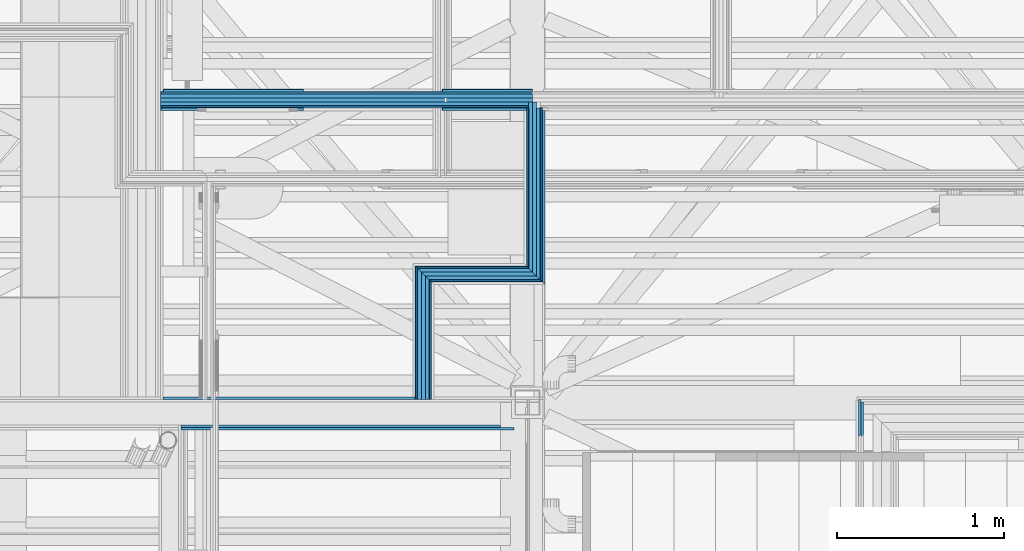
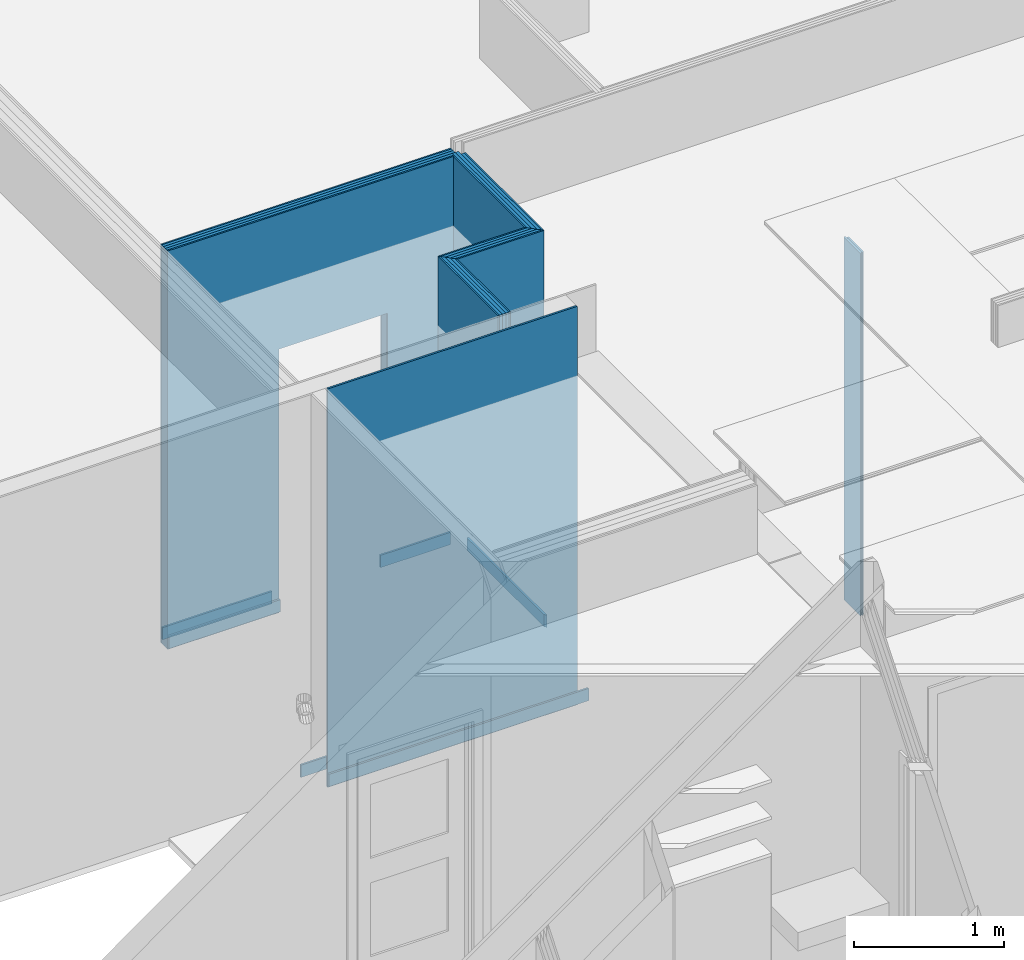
# One storey, part 56 of 183: 28 building element parts, 1 opening, 6 elements without a shape of their own.
"""IFC2X3 building model written with IfcOpenShell, lengths in metres."""

from ifc_helpers import new_model, entity, si_unit, converted_unit, derived_unit, money_unit, direction, frame, frame_2d, origin_with_axes, place, context, subcontext, project, spatial, polyline, rectangle, outline, extrude, material, type_object, element, aggregate, save


model = new_model("IFC2X3")

# Units and contexts
model_context = context("Model", 3, precision=1e-05, world=origin_with_axes(), true_north=direction((0.0, 1.0)))
body_context = subcontext(model_context, "Body", "Model", "MODEL_VIEW", scale=1.0)
ifc_project = project(units=[si_unit("LENGTHUNIT", "METRE"), si_unit("AREAUNIT", "SQUARE_METRE"), si_unit("VOLUMEUNIT", "CUBIC_METRE"), si_unit("ABSORBEDDOSEUNIT", "GRAY"), si_unit("AMOUNTOFSUBSTANCEUNIT", "MOLE"), si_unit("DOSEEQUIVALENTUNIT", "SIEVERT"), si_unit("ELECTRICCAPACITANCEUNIT", "FARAD"), si_unit("ELECTRICCHARGEUNIT", "COULOMB"), si_unit("ELECTRICCONDUCTANCEUNIT", "SIEMENS"), si_unit("ELECTRICCURRENTUNIT", "AMPERE"), si_unit("ELECTRICRESISTANCEUNIT", "OHM"), si_unit("ELECTRICVOLTAGEUNIT", "VOLT"), si_unit("ENERGYUNIT", "JOULE"), si_unit("FORCEUNIT", "NEWTON"), si_unit("FREQUENCYUNIT", "HERTZ"), si_unit("ILLUMINANCEUNIT", "LUX"), si_unit("INDUCTANCEUNIT", "HENRY"), si_unit("LUMINOUSFLUXUNIT", "LUMEN"), si_unit("LUMINOUSINTENSITYUNIT", "CANDELA"), si_unit("MAGNETICFLUXDENSITYUNIT", "TESLA"), si_unit("MAGNETICFLUXUNIT", "WEBER"), si_unit("MASSUNIT", "GRAM"), converted_unit("PLANEANGLEUNIT", "degree", entity("IfcReal", 0.0174532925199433), si_unit("PLANEANGLEUNIT", "RADIAN"), dimensions=[0, 0, 0, 0, 0, 0, 0]), si_unit("POWERUNIT", "WATT"), si_unit("PRESSUREUNIT", "PASCAL"), si_unit("RADIOACTIVITYUNIT", "BECQUEREL"), si_unit("SOLIDANGLEUNIT", "STERADIAN"), si_unit("THERMODYNAMICTEMPERATUREUNIT", "KELVIN"), si_unit("TIMEUNIT", "SECOND"), derived_unit("ACCELERATIONUNIT", [(si_unit("LENGTHUNIT", "METRE"), 1), (si_unit("TIMEUNIT", "SECOND"), -2)]), derived_unit("ANGULARVELOCITYUNIT", [(converted_unit("PLANEANGLEUNIT", "degree", entity("IfcReal", 0.0174532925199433), si_unit("PLANEANGLEUNIT", "RADIAN"), dimensions=[0, 0, 0, 0, 0, 0, 0]), 1), (si_unit("TIMEUNIT", "SECOND"), -1)]), derived_unit("CURVATUREUNIT", [(converted_unit("PLANEANGLEUNIT", "degree", entity("IfcReal", 0.0174532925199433), si_unit("PLANEANGLEUNIT", "RADIAN"), dimensions=[0, 0, 0, 0, 0, 0, 0]), 1), (si_unit("LENGTHUNIT", "METRE"), -1)]), derived_unit("DYNAMICVISCOSITYUNIT", [(si_unit("PRESSUREUNIT", "PASCAL"), 1), (si_unit("TIMEUNIT", "SECOND"), 1)]), derived_unit("HEATFLUXDENSITYUNIT", [(si_unit("POWERUNIT", "WATT"), 1), (si_unit("LENGTHUNIT", "METRE"), -2)]), derived_unit("HEATINGVALUEUNIT", [(si_unit("ENERGYUNIT", "JOULE"), 1), (si_unit("MASSUNIT", "GRAM"), -1)]), derived_unit("INTEGERCOUNTRATEUNIT", [(si_unit("TIMEUNIT", "SECOND"), -1)]), derived_unit("IONCONCENTRATIONUNIT", [(si_unit("MASSUNIT", "GRAM"), 1), (si_unit("VOLUMEUNIT", "CUBIC_METRE"), -1)]), derived_unit("ISOTHERMALMOISTURECAPACITYUNIT", [(si_unit("VOLUMEUNIT", "CUBIC_METRE"), 1), (si_unit("MASSUNIT", "GRAM"), -1)]), derived_unit("KINEMATICVISCOSITYUNIT", [(si_unit("AREAUNIT", "SQUARE_METRE"), 1), (si_unit("TIMEUNIT", "SECOND"), -1)]), derived_unit("LINEARFORCEUNIT", [(si_unit("FORCEUNIT", "NEWTON"), 1), (si_unit("LENGTHUNIT", "METRE"), -1)]), derived_unit("LINEARMOMENTUNIT", [(si_unit("FORCEUNIT", "NEWTON"), 1), (si_unit("LENGTHUNIT", "METRE"), -1)]), derived_unit("LINEARSTIFFNESSUNIT", [(si_unit("FORCEUNIT", "NEWTON"), 1), (si_unit("LENGTHUNIT", "METRE"), -1)]), derived_unit("LINEARVELOCITYUNIT", [(si_unit("LENGTHUNIT", "METRE"), 1), (si_unit("TIMEUNIT", "SECOND"), -1)]), derived_unit("LUMINOUSINTENSITYDISTRIBUTIONUNIT", [(si_unit("LUMINOUSINTENSITYUNIT", "CANDELA"), 1), (si_unit("LUMINOUSFLUXUNIT", "LUMEN"), -1)]), derived_unit("MASSDENSITYUNIT", [(si_unit("MASSUNIT", "GRAM"), 1), (si_unit("VOLUMEUNIT", "CUBIC_METRE"), -1)]), derived_unit("MASSFLOWRATEUNIT", [(si_unit("MASSUNIT", "GRAM"), 1), (si_unit("TIMEUNIT", "SECOND"), -1)]), derived_unit("MASSPERLENGTHUNIT", [(si_unit("MASSUNIT", "GRAM"), 1), (si_unit("LENGTHUNIT", "METRE"), -1)]), derived_unit("MODULUSOFELASTICITYUNIT", [(si_unit("FORCEUNIT", "NEWTON"), 1), (si_unit("AREAUNIT", "SQUARE_METRE"), -1)]), derived_unit("MODULUSOFLINEARSUBGRADEREACTIONUNIT", [(si_unit("FORCEUNIT", "NEWTON"), 1), (si_unit("LENGTHUNIT", "METRE"), -2)]), derived_unit("MODULUSOFROTATIONALSUBGRADEREACTIONUNIT", [(si_unit("FORCEUNIT", "NEWTON"), 1), (si_unit("LENGTHUNIT", "METRE"), 1)]), derived_unit("MODULUSOFSUBGRADEREACTIONUNIT", [(si_unit("FORCEUNIT", "NEWTON"), 1), (si_unit("VOLUMEUNIT", "CUBIC_METRE"), -1)]), derived_unit("MOISTUREDIFFUSIVITYUNIT", [(si_unit("VOLUMEUNIT", "CUBIC_METRE"), 1), (si_unit("TIMEUNIT", "SECOND"), -1)]), derived_unit("MOLECULARWEIGHTUNIT", [(si_unit("MASSUNIT", "GRAM"), 1), (si_unit("AMOUNTOFSUBSTANCEUNIT", "MOLE"), -1)]), derived_unit("PLANARFORCEUNIT", [(si_unit("FORCEUNIT", "NEWTON"), 1), (si_unit("LENGTHUNIT", "METRE"), -2)]), derived_unit("ROTATIONALFREQUENCYUNIT", [(si_unit("TIMEUNIT", "SECOND"), -1)]), derived_unit("ROTATIONALMASSUNIT", [(si_unit("MASSUNIT", "GRAM"), 1), (si_unit("LENGTHUNIT", "METRE"), 2)]), derived_unit("ROTATIONALSTIFFNESSUNIT", [(si_unit("FORCEUNIT", "NEWTON"), 1), (si_unit("LENGTHUNIT", "METRE"), 1), (converted_unit("PLANEANGLEUNIT", "degree", entity("IfcReal", 0.0174532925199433), si_unit("PLANEANGLEUNIT", "RADIAN"), dimensions=[0, 0, 0, 0, 0, 0, 0]), -1)]), derived_unit("SECTIONAREAINTEGRALUNIT", [(si_unit("LENGTHUNIT", "METRE"), 5)]), derived_unit("SECTIONMODULUSUNIT", [(si_unit("LENGTHUNIT", "METRE"), 3)]), derived_unit("SHEARMODULUSUNIT", [(si_unit("FORCEUNIT", "NEWTON"), 1), (si_unit("AREAUNIT", "SQUARE_METRE"), -1)]), derived_unit("SOUNDPOWERUNIT", [(si_unit("ENERGYUNIT", "JOULE"), 1), (si_unit("TIMEUNIT", "SECOND"), -1)]), derived_unit("SPECIFICHEATCAPACITYUNIT", [(si_unit("FORCEUNIT", "NEWTON"), 1), (si_unit("MASSUNIT", "GRAM"), -1), (si_unit("THERMODYNAMICTEMPERATUREUNIT", "KELVIN"), -1)]), derived_unit("TEMPERATUREGRADIENTUNIT", [(si_unit("THERMODYNAMICTEMPERATUREUNIT", "KELVIN"), 1), (si_unit("LENGTHUNIT", "METRE"), -1)]), derived_unit("THERMALADMITTANCEUNIT", [(si_unit("POWERUNIT", "WATT"), 1), (si_unit("AREAUNIT", "SQUARE_METRE"), -1), (si_unit("THERMODYNAMICTEMPERATUREUNIT", "KELVIN"), -1)]), derived_unit("THERMALCONDUCTANCEUNIT", [(si_unit("POWERUNIT", "WATT"), 1), (si_unit("LENGTHUNIT", "METRE"), -1), (si_unit("THERMODYNAMICTEMPERATUREUNIT", "KELVIN"), -1)]), derived_unit("THERMALEXPANSIONCOEFFICIENTUNIT", [(si_unit("THERMODYNAMICTEMPERATUREUNIT", "KELVIN"), -1)]), derived_unit("THERMALRESISTANCEUNIT", [(si_unit("AREAUNIT", "SQUARE_METRE"), 1), (si_unit("POWERUNIT", "WATT"), -1)]), derived_unit("THERMALTRANSMITTANCEUNIT", [(si_unit("POWERUNIT", "WATT"), 1), (si_unit("AREAUNIT", "SQUARE_METRE"), -1), (si_unit("THERMODYNAMICTEMPERATUREUNIT", "KELVIN"), -1)]), derived_unit("TORQUEUNIT", [(si_unit("FORCEUNIT", "NEWTON"), 1), (si_unit("LENGTHUNIT", "METRE"), 1)]), derived_unit("VAPORPERMEABILITYUNIT", [(si_unit("MASSUNIT", "GRAM"), 1), (si_unit("TIMEUNIT", "SECOND"), -1)]), derived_unit("VOLUMETRICFLOWRATEUNIT", [(si_unit("VOLUMEUNIT", "CUBIC_METRE"), 1), (si_unit("TIMEUNIT", "SECOND"), -1)]), derived_unit("WARPINGCONSTANTUNIT", [(si_unit("LENGTHUNIT", "METRE"), 6)]), derived_unit("WARPINGMOMENTUNIT", [(si_unit("FORCEUNIT", "NEWTON"), 1), (si_unit("LENGTHUNIT", "METRE"), 2)]), money_unit("GBP")], contexts=[model_context])

# Site, building, storey
site_placement = place(None, origin_with_axes())
site = spatial("IfcSite", under=ifc_project, at=site_placement, Name="Site", CompositionType="ELEMENT")
building_placement = place(site_placement, origin_with_axes())
building = spatial("IfcBuilding", under=site, at=building_placement, Name="Building01", CompositionType="ELEMENT")
storey_placement = place(building_placement, frame((0.0, 0.0, 5.15), z_axis=(0.0, 0.0, 1.0), x_axis=(1.0, 0.0, 0.0)))
storey = spatial("IfcBuildingStorey", under=building, at=storey_placement, Name="1F", CompositionType="ELEMENT", Elevation=5.15)

# Wall, building element parts
wall_type_1 = type_object("IfcWallType", Name="SHE_A-Walls_Type01c_Partywall_225mm_twin_tall", PredefinedType="NOTDEFINED")
wall_1_placement = place(storey_placement, frame((19.985661, 8.732, 0.0), z_axis=(0.0, 0.0, 1.0), x_axis=(0.0, -1.0, 0.0)))
wall_1 = element("IfcWall", 1, at=wall_1_placement, inside=storey, type_object=wall_type_1, Name="1C", ObjectType="SHE_A-Walls_Type01c_Partywall_225mm_twin_tall")
ifc_material_1 = material(Name="A_BSUK_WallInternal_Finishes_Plasterboard")
placement_1 = place(wall_1_placement, origin_with_axes())
building_element_part_1 = element("IfcBuildingElementPart", 2, at=placement_1, material=ifc_material_1, Name="4", context=body_context, shape_type="SweptSolid", body=[
    extrude(outline(polyline([(0.122, -0.073), (-0.088, -0.073), (-0.088, -0.088), (0.137, -0.088), (0.122, -0.073)])), origin_with_axes(), (0.0, 0.0, 1.0), 2.95),
])
building_element_part_2 = element("IfcBuildingElementPart", 3, at=placement_1, material=ifc_material_1, Name="7", context=body_context, shape_type="SweptSolid", body=[
    extrude(outline(polyline([(0.122, -0.058), (-0.073, -0.058), (-0.073, -0.073), (0.137, -0.073), (0.122, -0.058)])), origin_with_axes(), (0.0, 0.0, 1.0), 2.95),
])
aggregate(wall_1, [building_element_part_1, building_element_part_2])

# Wall, opening, building element parts
wall_type_2 = type_object("IfcWallType", Name="SHE_A-Walls_Type05a_Partition_95mm_tall", PredefinedType="NOTDEFINED")
wall_2_placement = place(storey_placement, frame((17.94, 10.63, 0.0), z_axis=(0.0, 0.0, 1.0), x_axis=(-1.0, 0.0, 0.0)))
wall_2 = element("IfcWall", 4, at=wall_2_placement, inside=storey, type_object=wall_type_2, Name="5A", ObjectType="SHE_A-Walls_Type05a_Partition_95mm_tall")
opening_placement = place(wall_2_placement, frame((0.540552, -0.05, 0.0), z_axis=(0.0, 0.0, 1.0), x_axis=(1.0, 0.0, 0.0)))
element("IfcOpeningElement", 5, at=opening_placement, cuts=wall_2, Name="Opening", ObjectType="Opening", context=body_context, shape_type="SweptSolid", body=[
    extrude(rectangle(XDim=0.834, YDim=2.142, at=frame_2d((-0.417, 1.071), x_axis=(-1.0, 0.0))), frame((0.0, 0.0, 0.0), z_axis=(0.0, 1.0, 0.0), x_axis=(-1.0, 0.0, 0.0)), (0.0, 0.0, 1.0), 0.125),
])
ifc_material_2 = material(Name="A_BSUK_Walls_Timber")
placement_2 = place(wall_2_placement, origin_with_axes())
building_element_part_3 = element("IfcBuildingElementPart", 6, at=placement_2, material=ifc_material_2, Name="1", context=body_context, shape_type="SweptSolid", body=[
    extrude(rectangle(XDim=2.216868, YDim=0.015, at=frame_2d((1.108434, -0.0425), x_axis=(-1.0, 0.0))), frame((0.0, 0.0, 0.015), z_axis=(0.0, 0.0, 1.0), x_axis=(1.0, 0.0, 0.0)), (0.0, 0.0, 1.0), 0.1),
])
building_element_part_4 = element("IfcBuildingElementPart", 7, at=placement_2, material=ifc_material_1, Name="2", context=body_context, shape_type="SweptSolid", body=[
    extrude(rectangle(XDim=2.231868, YDim=0.012, at=frame_2d((1.115934, -0.029), x_axis=(-1.0, 0.0))), origin_with_axes(), (0.0, 0.0, 1.0), 3.24),
])
ifc_material_3 = material(Name="Air Cavity")
building_element_part_5 = element("IfcBuildingElementPart", 8, at=placement_2, material=ifc_material_3, Name="3", context=body_context, shape_type="SweptSolid", body=[
    extrude(rectangle(XDim=2.231868, YDim=0.023, at=frame_2d((1.115934, -0.0115), x_axis=(-1.0, 0.0))), origin_with_axes(), (0.0, 0.0, 1.0), 3.24),
])
ifc_material_4 = material(Name="A_BSUK_Insulation")
building_element_part_6 = element("IfcBuildingElementPart", 9, at=placement_2, material=ifc_material_4, Name="4", context=body_context, shape_type="SweptSolid", body=[
    extrude(rectangle(XDim=2.231868, YDim=0.025, at=frame_2d((1.115934, 0.0125), x_axis=(-1.0, 0.0))), origin_with_axes(), (0.0, 0.0, 1.0), 3.24),
])
building_element_part_7 = element("IfcBuildingElementPart", 10, at=placement_2, material=ifc_material_3, Name="5", context=body_context, shape_type="SweptSolid", body=[
    extrude(rectangle(XDim=2.231868, YDim=0.023, at=frame_2d((1.115934, 0.0365), x_axis=(-1.0, 0.0))), origin_with_axes(), (0.0, 0.0, 1.0), 3.24),
])
building_element_part_8 = element("IfcBuildingElementPart", 11, at=placement_2, material=ifc_material_1, Name="6", context=body_context, shape_type="SweptSolid", body=[
    extrude(rectangle(XDim=2.208868, YDim=0.012, at=frame_2d((1.127434, 0.054), x_axis=(-1.0, 0.0))), origin_with_axes(), (0.0, 0.0, 1.0), 3.24),
])
building_element_part_9 = element("IfcBuildingElementPart", 12, at=placement_2, material=ifc_material_2, Name="7", context=body_context, shape_type="SweptSolid", body=[
    extrude(rectangle(XDim=2.196868, YDim=0.015, at=frame_2d((1.133434, 0.0675), x_axis=(-1.0, 0.0))), frame((0.0, 0.0, 0.015), z_axis=(0.0, 0.0, 1.0), x_axis=(1.0, 0.0, 0.0)), (0.0, 0.0, 1.0), 0.1),
])
aggregate(wall_2, [building_element_part_3, building_element_part_4, building_element_part_5, building_element_part_6, building_element_part_7, building_element_part_8, building_element_part_9])

# Wall, building element parts
wall_3_placement = place(storey_placement, frame((17.273132, 8.82, 0.0), z_axis=(0.0, 0.0, 1.0), x_axis=(0.0, 1.0, 0.0)))
wall_3 = element("IfcWall", 13, at=wall_3_placement, inside=storey, type_object=wall_type_2, Name="5A", ObjectType="SHE_A-Walls_Type05a_Partition_95mm_tall")
placement_3 = place(wall_3_placement, origin_with_axes())
building_element_part_10 = element("IfcBuildingElementPart", 14, at=placement_3, material=ifc_material_1, Name="2", context=body_context, shape_type="SweptSolid", body=[
    extrude(outline(polyline([(0.717, -0.048), (0.0, -0.048), (0.0, -0.06), (0.705, -0.06), (0.717, -0.048)])), origin_with_axes(), (0.0, 0.0, 1.0), 3.24),
])
building_element_part_11 = element("IfcBuildingElementPart", 15, at=placement_3, material=ifc_material_3, Name="3", context=body_context, shape_type="SweptSolid", body=[
    extrude(outline(polyline([(0.74, -0.025), (0.0, -0.025), (0.0, -0.048), (0.717, -0.048), (0.74, -0.025)])), origin_with_axes(), (0.0, 0.0, 1.0), 3.24),
])
building_element_part_12 = element("IfcBuildingElementPart", 16, at=placement_3, material=ifc_material_4, Name="4", context=body_context, shape_type="SweptSolid", body=[
    extrude(outline(polyline([(0.765, 0.0), (0.0, 0.0), (0.0, -0.025), (0.74, -0.025), (0.765, 0.0)])), origin_with_axes(), (0.0, 0.0, 1.0), 3.24),
])
building_element_part_13 = element("IfcBuildingElementPart", 17, at=placement_3, material=ifc_material_3, Name="5", context=body_context, shape_type="SweptSolid", body=[
    extrude(outline(polyline([(0.788, 0.023), (0.0, 0.023), (0.0, 0.0), (0.765, 0.0), (0.788, 0.023)])), origin_with_axes(), (0.0, 0.0, 1.0), 3.24),
])
building_element_part_14 = element("IfcBuildingElementPart", 18, at=placement_3, material=ifc_material_1, Name="6", context=body_context, shape_type="SweptSolid", body=[
    extrude(outline(polyline([(0.8, 0.035), (0.0, 0.035), (0.0, 0.023), (0.788, 0.023), (0.8, 0.035)])), origin_with_axes(), (0.0, 0.0, 1.0), 3.24),
])
aggregate(wall_3, [building_element_part_10, building_element_part_11, building_element_part_12, building_element_part_13, building_element_part_14])

wall_4_placement = place(storey_placement, frame((17.273132, 9.585, 0.0), z_axis=(0.0, 0.0, 1.0), x_axis=(1.0, 0.0, 0.0)))
wall_4 = element("IfcWall", 19, at=wall_4_placement, inside=storey, type_object=wall_type_2, Name="5A", ObjectType="SHE_A-Walls_Type05a_Partition_95mm_tall")
placement_4 = place(wall_4_placement, origin_with_axes())
building_element_part_15 = element("IfcBuildingElementPart", 20, at=placement_4, material=ifc_material_1, Name="2", context=body_context, shape_type="SweptSolid", body=[
    extrude(outline(polyline([(0.714868, -0.048), (0.048, -0.048), (0.06, -0.06), (0.726868, -0.06), (0.714868, -0.048)])), origin_with_axes(), (0.0, 0.0, 1.0), 3.24),
])
building_element_part_16 = element("IfcBuildingElementPart", 21, at=placement_4, material=ifc_material_3, Name="3", context=body_context, shape_type="SweptSolid", body=[
    extrude(outline(polyline([(0.691868, -0.025), (0.025, -0.025), (0.048, -0.048), (0.714868, -0.048), (0.691868, -0.025)])), origin_with_axes(), (0.0, 0.0, 1.0), 3.24),
])
building_element_part_17 = element("IfcBuildingElementPart", 22, at=placement_4, material=ifc_material_4, Name="4", context=body_context, shape_type="SweptSolid", body=[
    extrude(outline(polyline([(0.666868, 0.0), (0.0, 0.0), (0.025, -0.025), (0.691868, -0.025), (0.666868, 0.0)])), origin_with_axes(), (0.0, 0.0, 1.0), 3.24),
])
building_element_part_18 = element("IfcBuildingElementPart", 23, at=placement_4, material=ifc_material_3, Name="5", context=body_context, shape_type="SweptSolid", body=[
    extrude(outline(polyline([(0.643868, 0.023), (-0.023, 0.023), (0.0, 0.0), (0.666868, 0.0), (0.643868, 0.023)])), origin_with_axes(), (0.0, 0.0, 1.0), 3.24),
])
building_element_part_19 = element("IfcBuildingElementPart", 24, at=placement_4, material=ifc_material_1, Name="6", context=body_context, shape_type="SweptSolid", body=[
    extrude(outline(polyline([(0.631868, 0.035), (-0.035, 0.035), (-0.023, 0.023), (0.643868, 0.023), (0.631868, 0.035)])), origin_with_axes(), (0.0, 0.0, 1.0), 3.24),
])
aggregate(wall_4, [building_element_part_15, building_element_part_16, building_element_part_17, building_element_part_18, building_element_part_19])

wall_5_placement = place(storey_placement, frame((17.94, 9.585, 0.0), z_axis=(0.0, 0.0, 1.0), x_axis=(0.0, 1.0, 0.0)))
wall_5 = element("IfcWall", 25, at=wall_5_placement, inside=storey, type_object=wall_type_2, Name="5A", ObjectType="SHE_A-Walls_Type05a_Partition_95mm_tall")
placement_5 = place(wall_5_placement, origin_with_axes())
building_element_part_20 = element("IfcBuildingElementPart", 26, at=placement_5, material=ifc_material_2, Name="1", context=body_context, shape_type="SweptSolid", body=[
    extrude(outline(polyline([(0.97, -0.06), (-0.06, -0.06), (-0.075, -0.075), (0.97, -0.075), (0.97, -0.06)])), frame((0.0, 0.0, 0.015), z_axis=(0.0, 0.0, 1.0), x_axis=(1.0, 0.0, 0.0)), (0.0, 0.0, 1.0), 0.1),
])
building_element_part_21 = element("IfcBuildingElementPart", 27, at=placement_5, material=ifc_material_1, Name="2", context=body_context, shape_type="SweptSolid", body=[
    extrude(outline(polyline([(0.985, -0.048), (-0.048, -0.048), (-0.06, -0.06), (0.985, -0.06), (0.985, -0.048)])), origin_with_axes(), (0.0, 0.0, 1.0), 3.24),
])
building_element_part_22 = element("IfcBuildingElementPart", 28, at=placement_5, material=ifc_material_3, Name="3", context=body_context, shape_type="SweptSolid", body=[
    extrude(outline(polyline([(0.985, -0.025), (-0.025, -0.025), (-0.048, -0.048), (0.985, -0.048), (0.985, -0.025)])), origin_with_axes(), (0.0, 0.0, 1.0), 3.24),
])
building_element_part_23 = element("IfcBuildingElementPart", 29, at=placement_5, material=ifc_material_4, Name="4", context=body_context, shape_type="SweptSolid", body=[
    extrude(outline(polyline([(1.02, 0.0), (0.0, 0.0), (-0.025, -0.025), (1.02, -0.025), (1.02, 0.0)])), origin_with_axes(), (0.0, 0.0, 1.0), 3.24),
])
building_element_part_24 = element("IfcBuildingElementPart", 30, at=placement_5, material=ifc_material_3, Name="5", context=body_context, shape_type="SweptSolid", body=[
    extrude(outline(polyline([(1.02, 0.023), (0.023, 0.023), (0.0, 0.0), (1.02, 0.0), (1.02, 0.023)])), origin_with_axes(), (0.0, 0.0, 1.0), 3.24),
])
building_element_part_25 = element("IfcBuildingElementPart", 31, at=placement_5, material=ifc_material_1, Name="6", context=body_context, shape_type="SweptSolid", body=[
    extrude(outline(polyline([(0.985, 0.035), (0.035, 0.035), (0.023, 0.023), (0.985, 0.023), (0.985, 0.035)])), origin_with_axes(), (0.0, 0.0, 1.0), 3.24),
])
aggregate(wall_5, [building_element_part_20, building_element_part_21, building_element_part_22, building_element_part_23, building_element_part_24, building_element_part_25])

wall_type_3 = type_object("IfcWallType", Name="SHE_A-Walls_Type03a_BlockworkWall_170mm", PredefinedType="NOTDEFINED")
wall_6_placement = place(storey_placement, frame((17.75, 8.805, 0.0), z_axis=(0.0, 0.0, 1.0), x_axis=(-1.0, 0.0, 0.0)))
wall_6 = element("IfcWall", 32, at=wall_6_placement, inside=storey, type_object=wall_type_3, Name="4B", ObjectType="SHE_A-Walls_Type03a_BlockworkWall_170mm")
placement_6 = place(wall_6_placement, origin_with_axes())
building_element_part_26 = element("IfcBuildingElementPart", 33, at=placement_6, material=ifc_material_2, Name="6", context=body_context, shape_type="SweptSolid", body=[
    extrude(rectangle(XDim=1.515, YDim=0.015, at=frame_2d((1.269368, -0.0225), x_axis=(-1.0, 0.0))), frame((0.0, 0.0, 0.015), z_axis=(0.0, 0.0, 1.0), x_axis=(1.0, 0.0, 0.0)), (0.0, 0.0, 1.0), 0.1),
])
ifc_material_5 = material(Name="A_BSUK_WallInternal_Finishes_Plaster")
building_element_part_27 = element("IfcBuildingElementPart", 34, at=placement_6, material=ifc_material_5, Name="9", context=body_context, shape_type="SweptSolid", body=[
    extrude(rectangle(XDim=1.92, YDim=0.015, at=frame_2d((0.96, 0.1475), x_axis=(-1.0, 0.0))), origin_with_axes(), (0.0, 0.0, 1.0), 3.24),
])
building_element_part_28 = element("IfcBuildingElementPart", 35, at=placement_6, material=ifc_material_2, Name="12", context=body_context, shape_type="SweptSolid", body=[
    extrude(rectangle(XDim=2.0, YDim=0.015, at=frame_2d((0.92, 0.1625), x_axis=(-1.0, 0.0))), frame((0.0, 0.0, 0.015), z_axis=(0.0, 0.0, 1.0), x_axis=(1.0, 0.0, 0.0)), (0.0, 0.0, 1.0), 0.1),
])
aggregate(wall_6, [building_element_part_26, building_element_part_27, building_element_part_28])

save(model, "model.ifc")
